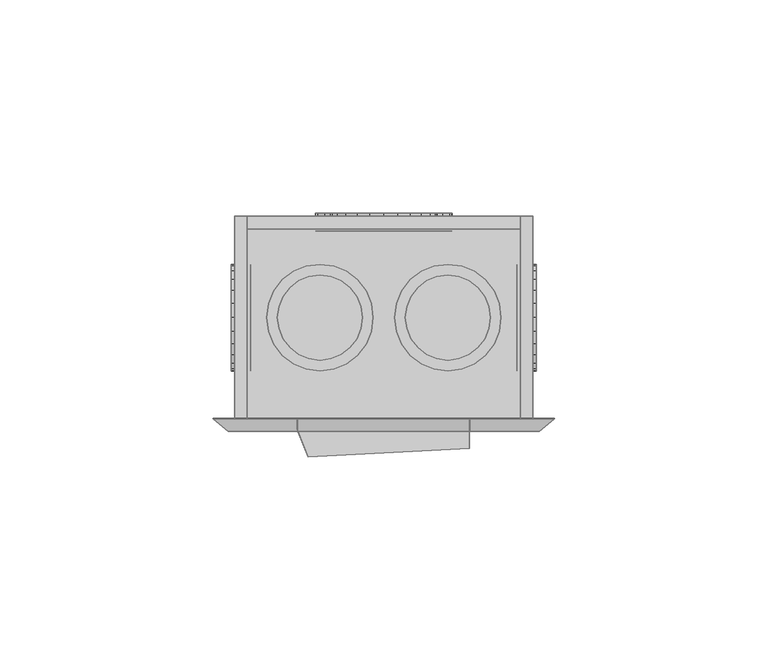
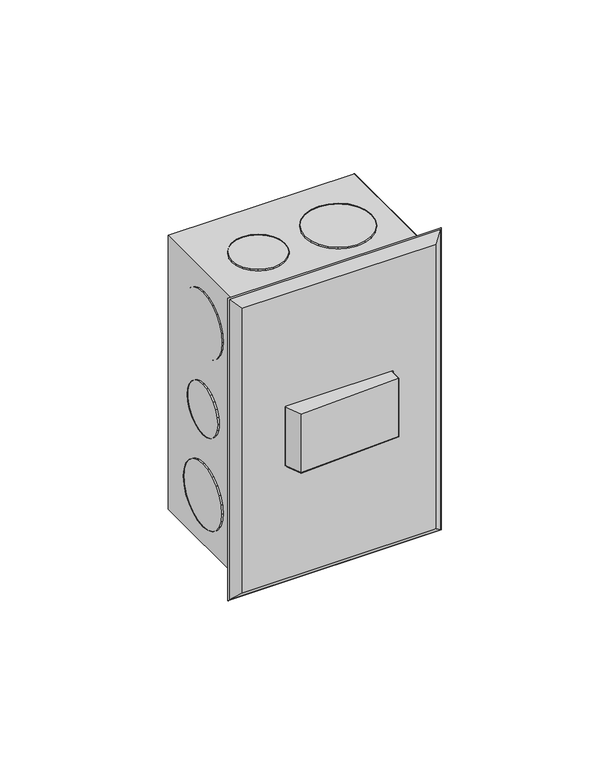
"""IFC4 building model written with IfcOpenShell, lengths in millimetres: proxy geometry,  210201 :  210201."""

from ifc_helpers import new_model, si_unit, origin, place, context, project, spatial, triangles, source, transform, mapped, element, save


def generic_models_004ad620(model_context):
    return source(origin(), model_context, "Body", "Tessellation", [
        triangles([(2476.1099075, 11248.6994385, 1254.3000378), (2473.1100906, 11248.6994385, 1148.7000154), (2476.1099075, 11248.6994385, 1145.6999805), (2473.1100906, 11248.6994385, 1251.2999302), (2406.1099651, 11248.6994385, 1254.3000378), (2409.1099274, 11248.6994385, 1251.2999302), (2406.1099651, 11248.6994385, 1145.6999805), (2409.1099274, 11248.6994385, 1148.7000154), (2473.1100906, 11296.2000275, 1251.2999302), (2473.1100906, 11296.2000275, 1148.7000154), (2406.1099651, 11296.2000275, 1254.3000378), (2406.1099651, 11296.2000275, 1145.6999805), (2409.1099274, 11296.2000275, 1251.2999302), (2476.1099075, 11296.2000275, 1145.6999805), (2409.1099274, 11296.2000275, 1148.7000154), (2476.1099075, 11296.2000275, 1254.3000378), (2473.1100906, 11293.2002106, 1251.2999302), (2409.1099274, 11293.2002106, 1148.7000154), (2473.1100906, 11293.2002106, 1148.7000154), (2409.1099274, 11293.2002106, 1251.2999302), (2455.0100327, 11292.7002411, 1191.9999887), (2449.1101021, 11292.7002411, 1186.0999855), (2452.4099007, 11292.7002411, 1188.6999722), (2456.609935, 11292.7002411, 1195.8999687), (2445.3100433, 11292.7002411, 1184.5000105), (2457.1099045, 11292.7002411, 1200.0000092), (2441.110009, 11292.7002411, 1183.9999683), (2456.609935, 11292.7002411, 1204.0999769), (2437.0099686, 11292.7002411, 1184.5000105), (2455.0100327, 11292.7002411, 1208.0000296), (2433.1100613, 11292.7002411, 1186.0999855), (2452.4099007, 11292.7002411, 1211.2999735), (2429.809972, 11292.7002411, 1188.6999722), (2449.1101021, 11292.7002411, 1213.9000328), (2427.3099792, 11292.7002411, 1191.9999887), (2445.3100433, 11292.7002411, 1215.5000078), (2425.7099316, 11292.7002411, 1195.8999687), (2441.110009, 11292.7002411, 1215.9999773), (2425.1099682, 11292.7002411, 1200.0000092), (2437.0099686, 11292.7002411, 1215.5000078), (2425.7099316, 11292.7002411, 1204.0999769), (2433.1100613, 11292.7002411, 1213.9000328), (2427.3099792, 11292.7002411, 1208.0000296), (2429.809972, 11292.7002411, 1211.2999735), (2437.0099686, 11296.8999847, 1184.5000105), (2441.110009, 11296.8999847, 1183.9999683), (2445.3100433, 11296.8999847, 1184.5000105), (2449.1101021, 11296.8999847, 1186.0999855), (2452.4099007, 11296.8999847, 1188.6999722), (2455.0100327, 11296.8999847, 1191.9999887), (2456.609935, 11296.8999847, 1195.8999687), (2457.1099045, 11296.8999847, 1200.0000092), (2456.609935, 11296.8999847, 1204.0999769), (2455.0100327, 11296.8999847, 1208.0000296), (2452.4099007, 11296.8999847, 1211.2999735), (2449.1101021, 11296.8999847, 1213.9000328), (2445.3100433, 11296.8999847, 1215.5000078), (2441.110009, 11296.8999847, 1215.9999773), (2437.0099686, 11296.8999847, 1215.5000078), (2433.1100613, 11296.8999847, 1213.9000328), (2429.809972, 11296.8999847, 1211.2999735), (2427.3099792, 11296.8999847, 1208.0000296), (2425.7099316, 11296.8999847, 1204.0999769), (2425.1099682, 11296.8999847, 1200.0000092), (2425.7099316, 11296.8999847, 1195.8999687), (2427.3099792, 11296.8999847, 1191.9999887), (2429.809972, 11296.8999847, 1188.6999722), (2433.1100613, 11296.8999847, 1186.0999855), (2452.0099251, 11292.7002411, 1227.8000565), (2447.4099152, 11292.7002411, 1223.2000465), (2450.0100471, 11292.7002411, 1225.2000698), (2453.2101425, 11292.7002411, 1230.8000187), (2444.4100983, 11292.7002411, 1221.8999805), (2453.6101181, 11292.7002411, 1233.9999687), (2441.110009, 11292.7002411, 1221.500005), (2453.2101425, 11292.7002411, 1237.2000641), (2437.910059, 11292.7002411, 1221.8999805), (2452.0099251, 11292.7002411, 1240.3000202), (2434.9099514, 11292.7002411, 1223.2000465), (2450.0100471, 11292.7002411, 1242.800013), (2432.3099648, 11292.7002411, 1225.2000698), (2430.3099415, 11292.7002411, 1227.8000565), (2447.4099152, 11292.7002411, 1244.8000362), (2444.4100983, 11292.7002411, 1246.0999569), (2429.1100147, 11292.7002411, 1230.8000187), (2441.110009, 11292.7002411, 1246.4999325), (2428.6100452, 11292.7002411, 1233.9999687), (2437.910059, 11292.7002411, 1246.0999569), (2429.1100147, 11292.7002411, 1237.2000641), (2430.3099415, 11292.7002411, 1240.3000202), (2434.9099514, 11292.7002411, 1244.8000362), (2432.3099648, 11292.7002411, 1242.800013), (2429.1100147, 11296.8999847, 1230.8000187), (2430.3099415, 11296.8999847, 1227.8000565), (2432.3099648, 11296.8999847, 1225.2000698), (2434.9099514, 11296.8999847, 1223.2000465), (2437.910059, 11296.8999847, 1221.8999805), (2441.110009, 11296.8999847, 1221.500005), (2444.4100983, 11296.8999847, 1221.8999805), (2447.4099152, 11296.8999847, 1223.2000465), (2450.0100471, 11296.8999847, 1225.2000698), (2452.0099251, 11296.8999847, 1227.8000565), (2453.2101425, 11296.8999847, 1230.8000187), (2453.6101181, 11296.8999847, 1233.9999687), (2453.2101425, 11296.8999847, 1237.2000641), (2452.0099251, 11296.8999847, 1240.3000202), (2450.0100471, 11296.8999847, 1242.800013), (2447.4099152, 11296.8999847, 1244.8000362), (2444.4100983, 11296.8999847, 1246.0999569), (2441.110009, 11296.8999847, 1246.4999325), (2437.910059, 11296.8999847, 1246.0999569), (2434.9099514, 11296.8999847, 1244.8000362), (2432.3099648, 11296.8999847, 1242.800013), (2430.3099415, 11296.8999847, 1240.3000202), (2429.1100147, 11296.8999847, 1237.2000641), (2428.6100452, 11296.8999847, 1233.9999687), (2447.4099152, 11296.8999847, 1155.1999821), (2452.0099251, 11296.8999847, 1159.6999981), (2450.0100471, 11296.8999847, 1157.2000053), (2444.4100983, 11296.8999847, 1153.8999887), (2453.2101425, 11296.8999847, 1162.8000269), (2441.110009, 11296.8999847, 1153.5000132), (2453.6101181, 11296.8999847, 1165.9999769), (2437.910059, 11296.8999847, 1153.8999887), (2453.2101425, 11296.8999847, 1169.1999996), (2434.9099514, 11296.8999847, 1155.1999821), (2452.0099251, 11296.8999847, 1172.2000345), (2432.3099648, 11296.8999847, 1157.2000053), (2450.0100471, 11296.8999847, 1174.8000212), (2430.3099415, 11296.8999847, 1159.6999981), (2447.4099152, 11296.8999847, 1176.7999718), (2429.1100147, 11296.8999847, 1162.8000269), (2444.4100983, 11296.8999847, 1178.0999651), (2441.110009, 11296.8999847, 1178.5000134), (2428.6100452, 11296.8999847, 1165.9999769), (2429.1100147, 11296.8999847, 1169.1999996), (2437.910059, 11296.8999847, 1178.0999651), (2430.3099415, 11296.8999847, 1172.2000345), (2434.9099514, 11296.8999847, 1176.7999718), (2432.3099648, 11296.8999847, 1174.8000212), (2444.4100983, 11292.7002411, 1178.0999651), (2441.110009, 11292.7002411, 1178.5000134), (2447.4099152, 11292.7002411, 1176.7999718), (2450.0100471, 11292.7002411, 1174.8000212), (2452.0099251, 11292.7002411, 1172.2000345), (2453.2101425, 11292.7002411, 1169.1999996), (2453.6101181, 11292.7002411, 1165.9999769), (2453.2101425, 11292.7002411, 1162.8000269), (2452.0099251, 11292.7002411, 1159.6999981), (2450.0100471, 11292.7002411, 1157.2000053), (2447.4099152, 11292.7002411, 1155.1999821), (2444.4100983, 11292.7002411, 1153.8999887), (2441.110009, 11292.7002411, 1153.5000132), (2437.910059, 11292.7002411, 1153.8999887), (2434.9099514, 11292.7002411, 1155.1999821), (2432.3099648, 11292.7002411, 1157.2000053), (2430.3099415, 11292.7002411, 1159.6999981), (2429.1100147, 11292.7002411, 1162.8000269), (2428.6100452, 11292.7002411, 1165.9999769), (2429.1100147, 11292.7002411, 1169.1999996), (2430.3099415, 11292.7002411, 1172.2000345), (2432.3099648, 11292.7002411, 1174.8000212), (2434.9099514, 11292.7002411, 1176.7999718), (2437.910059, 11292.7002411, 1178.0999651), (2472.3101395, 11277.4000122, 1191.3000315), (2472.3101395, 11281.0997864, 1195.0000237), (2472.3101395, 11279.499884, 1192.9000065), (2472.3101395, 11282.0997253, 1197.4000225), (2472.3101395, 11275.0001587, 1190.3000198), (2472.3101395, 11282.399707, 1200.0000092), (2472.3101395, 11272.4003174, 1189.9999655), (2472.3101395, 11269.90047, 1190.3000198), (2472.3101395, 11282.0997253, 1202.5999958), (2472.3101395, 11281.0997864, 1204.9999947), (2472.3101395, 11267.3994598, 1191.3000315), (2472.3101395, 11279.499884, 1207.1000118), (2472.3101395, 11265.3995819, 1192.9000065), (2472.3101395, 11263.7996796, 1195.0000237), (2472.3101395, 11277.4000122, 1208.6999868), (2472.3101395, 11262.7997406, 1197.4000225), (2472.3101395, 11275.0001587, 1209.6999985), (2472.3101395, 11262.399765, 1200.0000092), (2472.3101395, 11272.4003174, 1209.9999802), (2472.3101395, 11262.7997406, 1202.5999958), (2472.3101395, 11269.90047, 1209.6999985), (2472.3101395, 11267.3994598, 1208.6999868), (2472.3101395, 11263.7996796, 1204.9999947), (2472.3101395, 11265.3995819, 1207.1000118), (2476.9098587, 11272.4003174, 1189.9999655), (2476.9098587, 11275.0001587, 1190.3000198), (2476.9098587, 11269.90047, 1190.3000198), (2476.9098587, 11267.3994598, 1191.3000315), (2476.9098587, 11265.3995819, 1192.9000065), (2476.9098587, 11263.7996796, 1195.0000237), (2476.9098587, 11262.7997406, 1197.4000225), (2476.9098587, 11262.399765, 1200.0000092), (2476.9098587, 11262.7997406, 1202.5999958), (2476.9098587, 11263.7996796, 1204.9999947), (2476.9098587, 11265.3995819, 1207.1000118), (2476.9098587, 11267.3994598, 1208.6999868), (2476.9098587, 11269.90047, 1209.6999985), (2476.9098587, 11272.4003174, 1209.9999802), (2476.9098587, 11275.0001587, 1209.6999985), (2476.9098587, 11277.4000122, 1208.6999868), (2476.9098587, 11279.499884, 1207.1000118), (2476.9098587, 11281.0997864, 1204.9999947), (2476.9098587, 11282.0997253, 1202.5999958), (2476.9098587, 11282.399707, 1200.0000092), (2476.9098587, 11282.0997253, 1197.4000225), (2476.9098587, 11281.0997864, 1195.0000237), (2476.9098587, 11279.499884, 1192.9000065), (2476.9098587, 11277.4000122, 1191.3000315), (2472.3101395, 11278.6999329, 1223.2000465), (2472.3101395, 11283.2996521, 1227.8000565), (2472.3101395, 11281.2997742, 1225.2000698), (2472.3101395, 11275.700116, 1221.8999805), (2472.3101395, 11284.4995789, 1230.8000187), (2472.3101395, 11284.8995544, 1233.9999687), (2472.3101395, 11272.4003174, 1221.500005), (2472.3101395, 11269.2005127, 1221.8999805), (2472.3101395, 11284.4995789, 1237.2000641), (2472.3101395, 11283.2996521, 1240.3000202), (2472.3101395, 11266.1995331, 1223.2000465), (2472.3101395, 11263.5996918, 1225.2000698), (2472.3101395, 11281.2997742, 1242.800013), (2472.3101395, 11261.5998138, 1227.8000565), (2472.3101395, 11278.6999329, 1244.8000362), (2472.3101395, 11260.3998871, 1230.8000187), (2472.3101395, 11275.700116, 1246.0999569), (2472.3101395, 11259.8999176, 1233.9999687), (2472.3101395, 11272.4003174, 1246.4999325), (2472.3101395, 11260.3998871, 1237.2000641), (2472.3101395, 11269.2005127, 1246.0999569), (2472.3101395, 11261.5998138, 1240.3000202), (2472.3101395, 11266.1995331, 1244.8000362), (2472.3101395, 11263.5996918, 1242.800013), (2476.9098587, 11272.4003174, 1221.500005), (2476.9098587, 11275.700116, 1221.8999805), (2476.9098587, 11269.2005127, 1221.8999805), (2476.9098587, 11266.1995331, 1223.2000465), (2476.9098587, 11263.5996918, 1225.2000698), (2476.9098587, 11261.5998138, 1227.8000565), (2476.9098587, 11260.3998871, 1230.8000187), (2476.9098587, 11259.8999176, 1233.9999687), (2476.9098587, 11260.3998871, 1237.2000641), (2476.9098587, 11261.5998138, 1240.3000202), (2476.9098587, 11263.5996918, 1242.800013), (2476.9098587, 11266.1995331, 1244.8000362), (2476.9098587, 11269.2005127, 1246.0999569), (2476.9098587, 11272.4003174, 1246.4999325), (2476.9098587, 11275.700116, 1246.0999569), (2476.9098587, 11278.6999329, 1244.8000362), (2476.9098587, 11281.2997742, 1242.800013), (2476.9098587, 11283.2996521, 1240.3000202), (2476.9098587, 11284.4995789, 1237.2000641), (2476.9098587, 11284.8995544, 1233.9999687), (2476.9098587, 11284.4995789, 1230.8000187), (2476.9098587, 11283.2996521, 1227.8000565), (2476.9098587, 11281.2997742, 1225.2000698), (2476.9098587, 11278.6999329, 1223.2000465), (2476.9098587, 11283.2996521, 1159.6999981), (2476.9098587, 11278.6999329, 1155.1999821), (2476.9098587, 11281.2997742, 1157.2000053), (2476.9098587, 11284.4995789, 1162.8000269), (2476.9098587, 11275.700116, 1153.8999887), (2476.9098587, 11284.8995544, 1165.9999769), (2476.9098587, 11272.4003174, 1153.5000132), (2476.9098587, 11284.4995789, 1169.1999996), (2476.9098587, 11269.2005127, 1153.8999887), (2476.9098587, 11283.2996521, 1172.2000345), (2476.9098587, 11266.1995331, 1155.1999821), (2476.9098587, 11281.2997742, 1174.8000212), (2476.9098587, 11263.5996918, 1157.2000053), (2476.9098587, 11278.6999329, 1176.7999718), (2476.9098587, 11261.5998138, 1159.6999981), (2476.9098587, 11275.700116, 1178.0999651), (2476.9098587, 11260.3998871, 1162.8000269), (2476.9098587, 11272.4003174, 1178.5000134), (2476.9098587, 11259.8999176, 1165.9999769), (2476.9098587, 11269.2005127, 1178.0999651), (2476.9098587, 11260.3998871, 1169.1999996), (2476.9098587, 11266.1995331, 1176.7999718), (2476.9098587, 11261.5998138, 1172.2000345), (2476.9098587, 11263.5996918, 1174.8000212), (2472.3101395, 11275.700116, 1178.0999651), (2472.3101395, 11272.4003174, 1178.5000134), (2472.3101395, 11269.2005127, 1178.0999651), (2472.3101395, 11266.1995331, 1176.7999718), (2472.3101395, 11263.5996918, 1174.8000212), (2472.3101395, 11261.5998138, 1172.2000345), (2472.3101395, 11260.3998871, 1169.1999996), (2472.3101395, 11259.8999176, 1165.9999769), (2472.3101395, 11260.3998871, 1162.8000269), (2472.3101395, 11261.5998138, 1159.6999981), (2472.3101395, 11263.5996918, 1157.2000053), (2472.3101395, 11266.1995331, 1155.1999821), (2472.3101395, 11269.2005127, 1153.8999887), (2472.3101395, 11272.4003174, 1153.5000132), (2472.3101395, 11275.700116, 1153.8999887), (2472.3101395, 11278.6999329, 1155.1999821), (2472.3101395, 11281.2997742, 1157.2000053), (2472.3101395, 11283.2996521, 1159.6999981), (2472.3101395, 11284.4995789, 1162.8000269), (2472.3101395, 11284.8995544, 1165.9999769), (2472.3101395, 11284.4995789, 1169.1999996), (2472.3101395, 11283.2996521, 1172.2000345), (2472.3101395, 11281.2997742, 1174.8000212), (2472.3101395, 11278.6999329, 1176.7999718), (2409.9100239, 11281.0997864, 1195.0000237), (2409.9100239, 11277.4000122, 1191.3000315), (2409.9100239, 11279.499884, 1192.9000065), (2409.9100239, 11282.0997253, 1197.4000225), (2409.9100239, 11275.0001587, 1190.3000198), (2409.9100239, 11282.399707, 1200.0000092), (2409.9100239, 11272.4003174, 1189.9999655), (2409.9100239, 11282.0997253, 1202.5999958), (2409.9100239, 11269.90047, 1190.3000198), (2409.9100239, 11281.0997864, 1204.9999947), (2409.9100239, 11267.3994598, 1191.3000315), (2409.9100239, 11279.499884, 1207.1000118), (2409.9100239, 11265.3995819, 1192.9000065), (2409.9100239, 11277.4000122, 1208.6999868), (2409.9100239, 11263.7996796, 1195.0000237), (2409.9100239, 11275.0001587, 1209.6999985), (2409.9100239, 11262.7997406, 1197.4000225), (2409.9100239, 11262.399765, 1200.0000092), (2409.9100239, 11272.4003174, 1209.9999802), (2409.9100239, 11269.90047, 1209.6999985), (2409.9100239, 11262.7997406, 1202.5999958), (2409.9100239, 11267.3994598, 1208.6999868), (2409.9100239, 11263.7996796, 1204.9999947), (2409.9100239, 11265.3995819, 1207.1000118), (2405.310014, 11275.0001587, 1209.6999985), (2405.310014, 11272.4003174, 1209.9999802), (2405.310014, 11269.90047, 1209.6999985), (2405.310014, 11267.3994598, 1208.6999868), (2405.310014, 11265.3995819, 1207.1000118), (2405.310014, 11263.7996796, 1204.9999947), (2405.310014, 11262.7997406, 1202.5999958), (2405.310014, 11262.399765, 1200.0000092), (2405.310014, 11262.7997406, 1197.4000225), (2405.310014, 11263.7996796, 1195.0000237), (2405.310014, 11265.3995819, 1192.9000065), (2405.310014, 11267.3994598, 1191.3000315), (2405.310014, 11269.90047, 1190.3000198), (2405.310014, 11272.4003174, 1189.9999655), (2405.310014, 11275.0001587, 1190.3000198), (2405.310014, 11277.4000122, 1191.3000315), (2405.310014, 11279.499884, 1192.9000065), (2405.310014, 11281.0997864, 1195.0000237), (2405.310014, 11282.0997253, 1197.4000225), (2405.310014, 11282.399707, 1200.0000092), (2405.310014, 11282.0997253, 1202.5999958), (2405.310014, 11281.0997864, 1204.9999947), (2405.310014, 11279.499884, 1207.1000118), (2405.310014, 11277.4000122, 1208.6999868), (2409.9100239, 11283.2996521, 1159.6999981), (2409.9100239, 11278.6999329, 1155.1999821), (2409.9100239, 11281.2997742, 1157.2000053), (2409.9100239, 11284.4995789, 1162.8000269), (2409.9100239, 11275.700116, 1153.8999887), (2409.9100239, 11284.8995544, 1165.9999769), (2409.9100239, 11272.4003174, 1153.5000132), (2409.9100239, 11284.4995789, 1169.1999996), (2409.9100239, 11269.2005127, 1153.8999887), (2409.9100239, 11283.2996521, 1172.2000345), (2409.9100239, 11266.1995331, 1155.1999821), (2409.9100239, 11281.2997742, 1174.8000212), (2409.9100239, 11263.5996918, 1157.2000053), (2409.9100239, 11278.6999329, 1176.7999718), (2409.9100239, 11261.5998138, 1159.6999981), (2409.9100239, 11275.700116, 1178.0999651), (2409.9100239, 11260.3998871, 1162.8000269), (2409.9100239, 11272.4003174, 1178.5000134), (2409.9100239, 11259.8999176, 1165.9999769), (2409.9100239, 11269.2005127, 1178.0999651), (2409.9100239, 11260.3998871, 1169.1999996), (2409.9100239, 11266.1995331, 1176.7999718), (2409.9100239, 11261.5998138, 1172.2000345), (2409.9100239, 11263.5996918, 1174.8000212), (2405.310014, 11275.700116, 1178.0999651), (2405.310014, 11272.4003174, 1178.5000134), (2405.310014, 11269.2005127, 1178.0999651), (2405.310014, 11266.1995331, 1176.7999718), (2405.310014, 11263.5996918, 1174.8000212), (2405.310014, 11261.5998138, 1172.2000345), (2405.310014, 11260.3998871, 1169.1999996), (2405.310014, 11259.8999176, 1165.9999769), (2405.310014, 11260.3998871, 1162.8000269), (2405.310014, 11261.5998138, 1159.6999981), (2405.310014, 11263.5996918, 1157.2000053), (2405.310014, 11266.1995331, 1155.1999821), (2405.310014, 11269.2005127, 1153.8999887), (2405.310014, 11272.4003174, 1153.5000132), (2405.310014, 11275.700116, 1153.8999887), (2405.310014, 11278.6999329, 1155.1999821), (2405.310014, 11281.2997742, 1157.2000053), (2405.310014, 11283.2996521, 1159.6999981), (2405.310014, 11284.4995789, 1162.8000269), (2405.310014, 11284.8995544, 1165.9999769), (2405.310014, 11284.4995789, 1169.1999996), (2405.310014, 11283.2996521, 1172.2000345), (2405.310014, 11281.2997742, 1174.8000212), (2405.310014, 11278.6999329, 1176.7999718), (2405.310014, 11278.6999329, 1223.2000465), (2405.310014, 11283.2996521, 1227.8000565), (2405.310014, 11281.2997742, 1225.2000698), (2405.310014, 11275.700116, 1221.8999805), (2405.310014, 11284.4995789, 1230.8000187), (2405.310014, 11284.8995544, 1233.9999687), (2405.310014, 11272.4003174, 1221.500005), (2405.310014, 11269.2005127, 1221.8999805), (2405.310014, 11284.4995789, 1237.2000641), (2405.310014, 11283.2996521, 1240.3000202), (2405.310014, 11266.1995331, 1223.2000465), (2405.310014, 11263.5996918, 1225.2000698), (2405.310014, 11281.2997742, 1242.800013), (2405.310014, 11261.5998138, 1227.8000565), (2405.310014, 11278.6999329, 1244.8000362), (2405.310014, 11260.3998871, 1230.8000187), (2405.310014, 11275.700116, 1246.0999569), (2405.310014, 11259.8999176, 1233.9999687), (2405.310014, 11272.4003174, 1246.4999325), (2405.310014, 11260.3998871, 1237.2000641), (2405.310014, 11269.2005127, 1246.0999569), (2405.310014, 11261.5998138, 1240.3000202), (2405.310014, 11266.1995331, 1244.8000362), (2405.310014, 11263.5996918, 1242.800013), (2409.9100239, 11272.4003174, 1221.500005), (2409.9100239, 11275.700116, 1221.8999805), (2409.9100239, 11269.2005127, 1221.8999805), (2409.9100239, 11266.1995331, 1223.2000465), (2409.9100239, 11263.5996918, 1225.2000698), (2409.9100239, 11261.5998138, 1227.8000565), (2409.9100239, 11260.3998871, 1230.8000187), (2409.9100239, 11259.8999176, 1233.9999687), (2409.9100239, 11260.3998871, 1237.2000641), (2409.9100239, 11261.5998138, 1240.3000202), (2409.9100239, 11263.5996918, 1242.800013), (2409.9100239, 11266.1995331, 1244.8000362), (2409.9100239, 11269.2005127, 1246.0999569), (2409.9100239, 11272.4003174, 1246.4999325), (2409.9100239, 11275.700116, 1246.0999569), (2409.9100239, 11278.6999329, 1244.8000362), (2409.9100239, 11281.2997742, 1242.800013), (2409.9100239, 11283.2996521, 1240.3000202), (2409.9100239, 11284.4995789, 1237.2000641), (2409.9100239, 11284.8995544, 1233.9999687), (2409.9100239, 11284.4995789, 1230.8000187), (2409.9100239, 11283.2996521, 1227.8000565), (2409.9100239, 11281.2997742, 1225.2000698), (2409.9100239, 11278.6999329, 1223.2000465), (2467.0098816, 11278.6999329, 1250.9999485), (2462.4098717, 11283.2996521, 1250.9999485), (2465.0100037, 11281.2997742, 1250.9999485), (2468.210099, 11275.700116, 1250.9999485), (2459.4100548, 11284.4995789, 1250.9999485), (2456.1099655, 11284.8995544, 1250.9999485), (2468.6100746, 11272.4003174, 1250.9999485), (2468.210099, 11269.2005127, 1250.9999485), (2452.9098701, 11284.4995789, 1250.9999485), (2449.9100533, 11283.2996521, 1250.9999485), (2467.0098816, 11266.1995331, 1250.9999485), (2465.0100037, 11263.5996918, 1250.9999485), (2447.3099213, 11281.2997742, 1250.9999485), (2445.3100433, 11278.6999329, 1250.9999485), (2462.4098717, 11261.5998138, 1250.9999485), (2459.4100548, 11260.3998871, 1250.9999485), (2444.1101166, 11275.700116, 1250.9999485), (2456.1099655, 11259.8999176, 1250.9999485), (2443.6098564, 11272.4003174, 1250.9999485), (2452.9098701, 11260.3998871, 1250.9999485), (2444.1101166, 11269.2005127, 1250.9999485), (2445.3100433, 11266.1995331, 1250.9999485), (2449.9100533, 11261.5998138, 1250.9999485), (2447.3099213, 11263.5996918, 1250.9999485), (2456.1099655, 11284.8995544, 1255.1999828), (2452.9098701, 11284.4995789, 1255.1999828), (2459.4100548, 11284.4995789, 1255.1999828), (2462.4098717, 11283.2996521, 1255.1999828), (2465.0100037, 11281.2997742, 1255.1999828), (2467.0098816, 11278.6999329, 1255.1999828), (2468.210099, 11275.700116, 1255.1999828), (2468.6100746, 11272.4003174, 1255.1999828), (2468.210099, 11269.2005127, 1255.1999828), (2467.0098816, 11266.1995331, 1255.1999828), (2465.0100037, 11263.5996918, 1255.1999828), (2462.4098717, 11261.5998138, 1255.1999828), (2459.4100548, 11260.3998871, 1255.1999828), (2456.1099655, 11259.8999176, 1255.1999828), (2452.9098701, 11260.3998871, 1255.1999828), (2449.9100533, 11261.5998138, 1255.1999828), (2447.3099213, 11263.5996918, 1255.1999828), (2445.3100433, 11266.1995331, 1255.1999828), (2444.1101166, 11269.2005127, 1255.1999828), (2443.6098564, 11272.4003174, 1255.1999828), (2444.1101166, 11275.700116, 1255.1999828), (2445.3100433, 11278.6999329, 1255.1999828), (2447.3099213, 11281.2997742, 1255.1999828), (2449.9100533, 11283.2996521, 1255.1999828), (2434.8099575, 11277.4000122, 1250.9999485), (2431.110038, 11281.0997864, 1250.9999485), (2433.2100552, 11279.499884, 1250.9999485), (2428.7100391, 11282.0997253, 1250.9999485), (2435.8100418, 11275.0001587, 1250.9999485), (2426.1100525, 11282.399707, 1250.9999485), (2436.1100235, 11272.4003174, 1250.9999485), (2435.8100418, 11269.90047, 1250.9999485), (2423.5100658, 11282.0997253, 1250.9999485), (2421.110067, 11281.0997864, 1250.9999485), (2434.8099575, 11267.3994598, 1250.9999485), (2419.1100437, 11279.499884, 1250.9999485), (2433.2100552, 11265.3995819, 1250.9999485), (2431.110038, 11263.7996796, 1250.9999485), (2417.509996, 11277.4000122, 1250.9999485), (2416.5100571, 11275.0001587, 1250.9999485), (2428.7100391, 11262.7997406, 1250.9999485), (2426.1100525, 11262.399765, 1250.9999485), (2416.1099361, 11272.4003174, 1250.9999485), (2423.5100658, 11262.7997406, 1250.9999485), (2416.5100571, 11269.90047, 1250.9999485), (2421.110067, 11263.7996796, 1250.9999485), (2417.509996, 11267.3994598, 1250.9999485), (2419.1100437, 11265.3995819, 1250.9999485), (2423.5100658, 11282.0997253, 1255.1999828), (2421.110067, 11281.0997864, 1255.1999828), (2426.1100525, 11282.399707, 1255.1999828), (2428.7100391, 11282.0997253, 1255.1999828), (2431.110038, 11281.0997864, 1255.1999828), (2433.2100552, 11279.499884, 1255.1999828), (2434.8099575, 11277.4000122, 1255.1999828), (2435.8100418, 11275.0001587, 1255.1999828), (2436.1100235, 11272.4003174, 1255.1999828), (2435.8100418, 11269.90047, 1255.1999828), (2434.8099575, 11267.3994598, 1255.1999828), (2433.2100552, 11265.3995819, 1255.1999828), (2431.110038, 11263.7996796, 1255.1999828), (2428.7100391, 11262.7997406, 1255.1999828), (2426.1100525, 11262.399765, 1255.1999828), (2423.5100658, 11262.7997406, 1255.1999828), (2421.110067, 11263.7996796, 1255.1999828), (2419.1100437, 11265.3995819, 1255.1999828), (2417.509996, 11267.3994598, 1255.1999828), (2416.5100571, 11269.90047, 1255.1999828), (2416.1099361, 11272.4003174, 1255.1999828), (2416.5100571, 11275.0001587, 1255.1999828), (2417.509996, 11277.4000122, 1255.1999828), (2419.1100437, 11279.499884, 1255.1999828), (2464.8100159, 11277.4000122, 1144.8000355), (2461.109951, 11281.0997864, 1144.8000355), (2463.2101135, 11279.499884, 1144.8000355), (2458.7100975, 11282.0997253, 1144.8000355), (2465.8099548, 11275.0001587, 1144.8000355), (2456.1099655, 11282.399707, 1144.8000355), (2466.1099365, 11272.4003174, 1144.8000355), (2465.8099548, 11269.90047, 1144.8000355), (2453.5101242, 11282.0997253, 1144.8000355), (2451.10998, 11281.0997864, 1144.8000355), (2464.8100159, 11267.3994598, 1144.8000355), (2449.1101021, 11279.499884, 1144.8000355), (2463.2101135, 11265.3995819, 1144.8000355), (2461.109951, 11263.7996796, 1144.8000355), (2447.5099091, 11277.4000122, 1144.8000355), (2446.5099701, 11275.0001587, 1144.8000355), (2458.7100975, 11262.7997406, 1144.8000355), (2456.1099655, 11262.399765, 1144.8000355), (2446.1099945, 11272.4003174, 1144.8000355), (2453.5101242, 11262.7997406, 1144.8000355), (2446.5099701, 11269.90047, 1144.8000355), (2451.10998, 11263.7996796, 1144.8000355), (2447.5099091, 11267.3994598, 1144.8000355), (2449.1101021, 11265.3995819, 1144.8000355), (2458.7100975, 11282.0997253, 1149.099991), (2456.1099655, 11282.399707, 1149.099991), (2461.109951, 11281.0997864, 1149.099991), (2463.2101135, 11279.499884, 1149.099991), (2464.8100159, 11277.4000122, 1149.099991), (2465.8099548, 11275.0001587, 1149.099991), (2466.1099365, 11272.4003174, 1149.099991), (2465.8099548, 11269.90047, 1149.099991), (2464.8100159, 11267.3994598, 1149.099991), (2463.2101135, 11265.3995819, 1149.099991), (2461.109951, 11263.7996796, 1149.099991), (2458.7100975, 11262.7997406, 1149.099991), (2456.1099655, 11262.399765, 1149.099991), (2453.5101242, 11262.7997406, 1149.099991), (2451.10998, 11263.7996796, 1149.099991), (2449.1101021, 11265.3995819, 1149.099991), (2447.5099091, 11267.3994598, 1149.099991), (2446.5099701, 11269.90047, 1149.099991), (2446.1099945, 11272.4003174, 1149.099991), (2446.5099701, 11275.0001587, 1149.099991), (2447.5099091, 11277.4000122, 1149.099991), (2449.1101021, 11279.499884, 1149.099991), (2451.10998, 11281.0997864, 1149.099991), (2453.5101242, 11282.0997253, 1149.099991), (2437.0099686, 11278.6999329, 1144.8000355), (2432.4099586, 11283.2996521, 1144.8000355), (2435.0099453, 11281.2997742, 1144.8000355), (2438.2100407, 11275.700116, 1144.8000355), (2429.4099964, 11284.4995789, 1144.8000355), (2426.1100525, 11284.8995544, 1144.8000355), (2438.6098709, 11272.4003174, 1144.8000355), (2438.2100407, 11269.2005127, 1144.8000355), (2422.9099571, 11284.4995789, 1144.8000355), (2419.9099949, 11283.2996521, 1144.8000355), (2437.0099686, 11266.1995331, 1144.8000355), (2435.0099453, 11263.5996918, 1144.8000355), (2417.3100082, 11281.2997742, 1144.8000355), (2415.309985, 11278.6999329, 1144.8000355), (2432.4099586, 11261.5998138, 1144.8000355), (2429.4099964, 11260.3998871, 1144.8000355), (2414.1100582, 11275.700116, 1144.8000355), (2426.1100525, 11259.8999176, 1144.8000355), (2413.6099434, 11272.4003174, 1144.8000355), (2422.9099571, 11260.3998871, 1144.8000355), (2414.1100582, 11269.2005127, 1144.8000355), (2415.309985, 11266.1995331, 1144.8000355), (2419.9099949, 11261.5998138, 1144.8000355), (2417.3100082, 11263.5996918, 1144.8000355), (2422.9099571, 11284.4995789, 1149.099991), (2419.9099949, 11283.2996521, 1149.099991), (2426.1100525, 11284.8995544, 1149.099991), (2429.4099964, 11284.4995789, 1149.099991), (2432.4099586, 11283.2996521, 1149.099991), (2435.0099453, 11281.2997742, 1149.099991), (2437.0099686, 11278.6999329, 1149.099991), (2438.2100407, 11275.700116, 1149.099991), (2438.6098709, 11272.4003174, 1149.099991), (2438.2100407, 11269.2005127, 1149.099991), (2437.0099686, 11266.1995331, 1149.099991), (2435.0099453, 11263.5996918, 1149.099991), (2432.4099586, 11261.5998138, 1149.099991), (2429.4099964, 11260.3998871, 1149.099991), (2426.1100525, 11259.8999176, 1149.099991), (2422.9099571, 11260.3998871, 1149.099991), (2419.9099949, 11261.5998138, 1149.099991), (2417.3100082, 11263.5996918, 1149.099991), (2415.309985, 11266.1995331, 1149.099991), (2414.1100582, 11269.2005127, 1149.099991), (2413.6099434, 11272.4003174, 1149.099991), (2414.1100582, 11275.700116, 1149.099991), (2415.309985, 11278.6999329, 1149.099991), (2417.3100082, 11281.2997742, 1149.099991), (2401.1099796, 11248.6994385, 1139.9999651), (2461.3099388, 11248.6994385, 1188.2999966), (2481.109893, 11248.6994385, 1139.9999651), (2420.9099339, 11248.6994385, 1188.2999966), (2401.1099796, 11248.6994385, 1259.9999805), (2420.9099339, 11248.6994385, 1211.7000217), (2481.109893, 11248.6994385, 1259.9999805), (2461.3099388, 11248.6994385, 1211.7000217), (2420.9099339, 11245.6996216, 1188.2999966), (2420.9099339, 11245.6996216, 1211.7000217), (2461.3099388, 11245.6996216, 1188.2999966), (2461.3099388, 11245.6996216, 1211.7000217), (2477.6101067, 11245.6996216, 1143.4999695), (2477.6101067, 11245.6996216, 1256.5000488), (2404.6100567, 11245.6996216, 1143.4999695), (2404.6100567, 11245.6996216, 1256.5000488), (2461.2099449, 11241.6998657, 1188.1000088), (2420.80994, 11248.6994385, 1188.1000088), (2461.2099449, 11248.6994385, 1188.1000088), (2423.4100719, 11239.7999817, 1188.1000088), (2420.80994, 11246.1995911, 1188.1000088), (2461.2099449, 11248.6994385, 1211.500034), (2420.80994, 11248.6994385, 1211.500034), (2461.2099449, 11241.6998657, 1211.500034), (2423.4100719, 11239.7999817, 1211.500034), (2420.80994, 11246.1995911, 1211.500034)], [[1, 2, 3], [2, 1, 4], [5, 4, 1], [4, 5, 6], [3, 2, 7], [7, 2, 8], [7, 8, 6], [7, 6, 5], [2, 9, 10], [9, 2, 4], [7, 11, 12], [11, 7, 5], [4, 13, 9], [13, 4, 6], [3, 12, 14], [12, 3, 7], [13, 8, 15], [8, 13, 6], [16, 3, 14], [3, 16, 1], [15, 2, 10], [2, 15, 8], [11, 1, 16], [1, 11, 5], [12, 10, 14], [10, 12, 15], [11, 15, 12], [15, 11, 13], [14, 10, 16], [16, 10, 9], [16, 9, 13], [16, 13, 11], [17, 18, 19], [18, 17, 20], [18, 13, 15], [13, 18, 20], [19, 15, 10], [15, 19, 18], [9, 19, 10], [19, 9, 17], [13, 17, 9], [17, 13, 20], [15, 9, 10], [9, 15, 13], [21, 22, 23], [22, 21, 24], [25, 22, 24], [25, 24, 26], [27, 25, 26], [27, 26, 28], [29, 27, 28], [29, 28, 30], [31, 29, 30], [31, 30, 32], [31, 32, 33], [33, 32, 34], [33, 34, 35], [35, 34, 36], [35, 36, 37], [37, 36, 38], [37, 38, 39], [39, 38, 40], [39, 40, 41], [41, 40, 42], [41, 42, 43], [43, 42, 44], [27, 45, 46], [45, 27, 29], [25, 46, 47], [46, 25, 27], [22, 47, 48], [47, 22, 25], [23, 48, 49], [48, 23, 22], [50, 23, 49], [23, 50, 21], [51, 21, 50], [21, 51, 24], [52, 24, 51], [24, 52, 26], [53, 26, 52], [26, 53, 28], [54, 28, 53], [28, 54, 30], [55, 30, 54], [30, 55, 32], [56, 32, 55], [32, 56, 34], [57, 34, 56], [34, 57, 36], [58, 36, 57], [36, 58, 38], [59, 38, 58], [38, 59, 40], [60, 40, 59], [40, 60, 42], [61, 42, 60], [42, 61, 44], [43, 61, 62], [61, 43, 44], [41, 62, 63], [62, 41, 43], [39, 63, 64], [63, 39, 41], [37, 64, 65], [64, 37, 39], [35, 65, 66], [65, 35, 37], [33, 66, 67], [66, 33, 35], [31, 67, 68], [67, 31, 33], [29, 68, 45], [68, 29, 31], [48, 50, 49], [50, 48, 47], [51, 50, 47], [51, 47, 46], [52, 51, 46], [52, 46, 45], [53, 52, 45], [53, 45, 68], [54, 53, 68], [54, 68, 67], [54, 67, 55], [55, 67, 66], [55, 66, 56], [56, 66, 65], [56, 65, 57], [57, 65, 64], [57, 64, 58], [58, 64, 63], [58, 63, 59], [59, 63, 62], [59, 62, 60], [60, 62, 61], [69, 70, 71], [70, 69, 72], [73, 70, 72], [73, 72, 74], [75, 73, 74], [75, 74, 76], [77, 75, 76], [77, 76, 78], [79, 77, 78], [79, 78, 80], [81, 79, 80], [81, 80, 82], [82, 80, 83], [82, 83, 84], [82, 84, 85], [85, 84, 86], [85, 86, 87], [87, 86, 88], [87, 88, 89], [89, 88, 90], [90, 88, 91], [90, 91, 92], [82, 93, 94], [93, 82, 85], [81, 94, 95], [94, 81, 82], [79, 95, 96], [95, 79, 81], [77, 96, 97], [96, 77, 79], [75, 97, 98], [97, 75, 77], [73, 98, 99], [98, 73, 75], [70, 99, 100], [99, 70, 73], [71, 100, 101], [100, 71, 70], [102, 71, 101], [71, 102, 69], [103, 69, 102], [69, 103, 72], [104, 72, 103], [72, 104, 74], [105, 74, 104], [74, 105, 76], [106, 76, 105], [76, 106, 78], [107, 78, 106], [78, 107, 80], [108, 80, 107], [80, 108, 83], [109, 83, 108], [83, 109, 84], [110, 84, 109], [84, 110, 86], [111, 86, 110], [86, 111, 88], [112, 88, 111], [88, 112, 91], [113, 91, 112], [91, 113, 92], [90, 113, 114], [113, 90, 92], [89, 114, 115], [114, 89, 90], [87, 115, 116], [115, 87, 89], [85, 116, 93], [116, 85, 87], [100, 102, 101], [102, 100, 99], [103, 102, 99], [103, 99, 98], [104, 103, 98], [104, 98, 97], [105, 104, 97], [106, 105, 97], [106, 97, 96], [106, 96, 95], [106, 95, 107], [107, 95, 94], [107, 94, 108], [108, 94, 93], [108, 93, 109], [109, 93, 116], [109, 116, 110], [110, 116, 115], [110, 115, 111], [111, 115, 114], [111, 114, 112], [112, 114, 113], [117, 118, 119], [118, 117, 120], [121, 118, 120], [121, 120, 122], [123, 121, 122], [123, 122, 124], [125, 123, 124], [125, 124, 126], [127, 125, 126], [127, 126, 128], [127, 128, 129], [129, 128, 130], [129, 130, 131], [131, 130, 132], [131, 132, 133], [133, 132, 134], [134, 132, 135], [134, 135, 136], [134, 136, 137], [137, 136, 138], [137, 138, 139], [139, 138, 140], [134, 141, 133], [141, 134, 142], [133, 143, 131], [143, 133, 141], [131, 144, 129], [144, 131, 143], [129, 145, 127], [145, 129, 144], [127, 146, 125], [146, 127, 145], [125, 147, 123], [147, 125, 146], [123, 148, 121], [148, 123, 147], [121, 149, 118], [149, 121, 148], [118, 150, 119], [150, 118, 149], [150, 117, 119], [117, 150, 151], [151, 120, 117], [120, 151, 152], [152, 122, 120], [122, 152, 153], [153, 124, 122], [124, 153, 154], [154, 126, 124], [126, 154, 155], [155, 128, 126], [128, 155, 156], [156, 130, 128], [130, 156, 157], [157, 132, 130], [132, 157, 158], [158, 135, 132], [135, 158, 159], [159, 136, 135], [136, 159, 160], [160, 138, 136], [138, 160, 161], [161, 140, 138], [140, 161, 162], [140, 163, 139], [163, 140, 162], [139, 164, 137], [164, 139, 163], [137, 142, 134], [142, 137, 164], [149, 151, 150], [151, 149, 148], [152, 151, 148], [153, 152, 148], [153, 148, 147], [153, 147, 146], [154, 153, 146], [154, 146, 145], [155, 154, 145], [155, 145, 144], [156, 155, 144], [156, 144, 157], [157, 144, 143], [157, 143, 141], [157, 141, 158], [158, 141, 142], [158, 142, 159], [159, 142, 164], [159, 164, 160], [160, 164, 163], [160, 163, 161], [161, 163, 162], [165, 166, 167], [168, 166, 165], [168, 165, 169], [170, 168, 169], [170, 169, 171], [170, 171, 172], [173, 170, 172], [174, 173, 172], [174, 172, 175], [176, 174, 175], [176, 175, 177], [176, 177, 178], [176, 178, 179], [179, 178, 180], [179, 180, 181], [181, 180, 182], [181, 182, 183], [183, 182, 184], [183, 184, 185], [185, 184, 186], [186, 184, 187], [186, 187, 188], [189, 169, 190], [169, 189, 171], [191, 171, 189], [171, 191, 172], [192, 172, 191], [172, 192, 175], [193, 175, 192], [175, 193, 177], [194, 177, 193], [177, 194, 178], [195, 178, 194], [178, 195, 180], [196, 180, 195], [180, 196, 182], [197, 182, 196], [182, 197, 184], [198, 184, 197], [184, 198, 187], [199, 187, 198], [187, 199, 188], [186, 199, 200], [199, 186, 188], [185, 200, 201], [200, 185, 186], [183, 201, 202], [201, 183, 185], [181, 202, 203], [202, 181, 183], [179, 203, 204], [203, 179, 181], [176, 204, 205], [204, 176, 179], [174, 205, 206], [205, 174, 176], [173, 206, 207], [206, 173, 174], [170, 207, 208], [207, 170, 173], [168, 208, 209], [208, 168, 170], [166, 209, 210], [209, 166, 168], [167, 210, 211], [210, 167, 166], [212, 167, 211], [167, 212, 165], [190, 165, 212], [165, 190, 169], [210, 212, 211], [212, 210, 209], [190, 212, 209], [190, 209, 208], [189, 190, 208], [189, 208, 207], [191, 189, 207], [191, 207, 206], [192, 191, 206], [192, 206, 205], [192, 205, 193], [193, 205, 204], [193, 204, 194], [194, 204, 203], [194, 203, 195], [195, 203, 196], [196, 203, 202], [196, 202, 201], [196, 201, 197], [197, 201, 200], [197, 200, 198], [198, 200, 199], [213, 214, 215], [214, 213, 216], [217, 214, 216], [218, 217, 216], [218, 216, 219], [218, 219, 220], [221, 218, 220], [222, 221, 220], [222, 220, 223], [222, 223, 224], [222, 224, 225], [225, 224, 226], [225, 226, 227], [227, 226, 228], [227, 228, 229], [229, 228, 230], [229, 230, 231], [231, 230, 232], [231, 232, 233], [233, 232, 234], [233, 234, 235], [235, 234, 236], [237, 216, 238], [216, 237, 219], [239, 219, 237], [219, 239, 220], [240, 220, 239], [220, 240, 223], [241, 223, 240], [223, 241, 224], [242, 224, 241], [224, 242, 226], [243, 226, 242], [226, 243, 228], [244, 228, 243], [228, 244, 230], [245, 230, 244], [230, 245, 232], [246, 232, 245], [232, 246, 234], [247, 234, 246], [234, 247, 236], [235, 247, 248], [247, 235, 236], [233, 248, 249], [248, 233, 235], [231, 249, 250], [249, 231, 233], [229, 250, 251], [250, 229, 231], [227, 251, 252], [251, 227, 229], [225, 252, 253], [252, 225, 227], [222, 253, 254], [253, 222, 225], [221, 254, 255], [254, 221, 222], [218, 255, 256], [255, 218, 221], [217, 256, 257], [256, 217, 218], [214, 257, 258], [257, 214, 217], [215, 258, 259], [258, 215, 214], [260, 215, 259], [215, 260, 213], [238, 213, 260], [213, 238, 216], [258, 260, 259], [260, 258, 257], [238, 260, 257], [238, 257, 256], [237, 238, 256], [237, 256, 255], [239, 237, 255], [239, 255, 254], [240, 239, 254], [240, 254, 253], [241, 240, 253], [241, 253, 252], [241, 252, 242], [242, 252, 251], [242, 251, 243], [243, 251, 244], [244, 251, 250], [244, 250, 249], [244, 249, 245], [245, 249, 246], [246, 249, 248], [246, 248, 247], [261, 262, 263], [262, 261, 264], [265, 262, 264], [265, 264, 266], [267, 265, 266], [267, 266, 268], [269, 267, 268], [269, 268, 270], [271, 269, 270], [271, 270, 272], [273, 271, 272], [273, 272, 274], [273, 274, 275], [275, 274, 276], [275, 276, 277], [277, 276, 278], [277, 278, 279], [279, 278, 280], [279, 280, 281], [281, 280, 282], [281, 282, 283], [283, 282, 284], [285, 278, 276], [278, 285, 286], [286, 280, 278], [280, 286, 287], [287, 282, 280], [282, 287, 288], [288, 284, 282], [284, 288, 289], [284, 290, 283], [290, 284, 289], [283, 291, 281], [291, 283, 290], [281, 292, 279], [292, 281, 291], [279, 293, 277], [293, 279, 292], [277, 294, 275], [294, 277, 293], [275, 295, 273], [295, 275, 294], [273, 296, 271], [296, 273, 295], [271, 297, 269], [297, 271, 296], [269, 298, 267], [298, 269, 297], [267, 299, 265], [299, 267, 298], [265, 300, 262], [300, 265, 299], [262, 301, 263], [301, 262, 300], [301, 261, 263], [261, 301, 302], [302, 264, 261], [264, 302, 303], [303, 266, 264], [266, 303, 304], [304, 268, 266], [268, 304, 305], [305, 270, 268], [270, 305, 306], [306, 272, 270], [272, 306, 307], [307, 274, 272], [274, 307, 308], [308, 276, 274], [276, 308, 285], [300, 302, 301], [302, 300, 299], [303, 302, 299], [303, 299, 298], [304, 303, 298], [304, 298, 297], [305, 304, 297], [305, 297, 296], [306, 305, 296], [306, 296, 295], [306, 295, 307], [307, 295, 294], [307, 294, 308], [308, 294, 293], [308, 293, 285], [285, 293, 286], [286, 293, 292], [286, 292, 291], [286, 291, 287], [287, 291, 288], [288, 291, 290], [288, 290, 289], [309, 310, 311], [310, 309, 312], [313, 310, 312], [313, 312, 314], [315, 313, 314], [315, 314, 316], [317, 315, 316], [317, 316, 318], [319, 317, 318], [319, 318, 320], [319, 320, 321], [321, 320, 322], [321, 322, 323], [323, 322, 324], [323, 324, 325], [325, 324, 326], [326, 324, 327], [326, 327, 328], [326, 328, 329], [329, 328, 330], [329, 330, 331], [331, 330, 332], [333, 327, 324], [327, 333, 334], [334, 328, 327], [328, 334, 335], [335, 330, 328], [330, 335, 336], [336, 332, 330], [332, 336, 337], [332, 338, 331], [338, 332, 337], [331, 339, 329], [339, 331, 338], [329, 340, 326], [340, 329, 339], [326, 341, 325], [341, 326, 340], [325, 342, 323], [342, 325, 341], [323, 343, 321], [343, 323, 342], [321, 344, 319], [344, 321, 343], [319, 345, 317], [345, 319, 344], [317, 346, 315], [346, 317, 345], [315, 347, 313], [347, 315, 346], [313, 348, 310], [348, 313, 347], [310, 349, 311], [349, 310, 348], [349, 309, 311], [309, 349, 350], [350, 312, 309], [312, 350, 351], [351, 314, 312], [314, 351, 352], [352, 316, 314], [316, 352, 353], [353, 318, 316], [318, 353, 354], [354, 320, 318], [320, 354, 355], [355, 322, 320], [322, 355, 356], [356, 324, 322], [324, 356, 333], [348, 350, 349], [351, 350, 348], [351, 348, 347], [352, 351, 347], [352, 347, 346], [352, 346, 345], [353, 352, 345], [354, 353, 345], [354, 345, 344], [355, 354, 344], [355, 344, 343], [355, 343, 342], [355, 342, 356], [356, 342, 341], [356, 341, 333], [333, 341, 340], [333, 340, 334], [334, 340, 339], [334, 339, 335], [335, 339, 336], [336, 339, 338], [336, 338, 337], [357, 358, 359], [358, 357, 360], [361, 358, 360], [361, 360, 362], [363, 361, 362], [363, 362, 364], [365, 363, 364], [365, 364, 366], [367, 365, 366], [367, 366, 368], [369, 367, 368], [369, 368, 370], [369, 370, 371], [371, 370, 372], [371, 372, 373], [373, 372, 374], [373, 374, 375], [375, 374, 376], [375, 376, 377], [377, 376, 378], [377, 378, 379], [379, 378, 380], [381, 374, 372], [374, 381, 382], [382, 376, 374], [376, 382, 383], [383, 378, 376], [378, 383, 384], [384, 380, 378], [380, 384, 385], [380, 386, 379], [386, 380, 385], [379, 387, 377], [387, 379, 386], [377, 388, 375], [388, 377, 387], [375, 389, 373], [389, 375, 388], [373, 390, 371], [390, 373, 389], [371, 391, 369], [391, 371, 390], [369, 392, 367], [392, 369, 391], [367, 393, 365], [393, 367, 392], [365, 394, 363], [394, 365, 393], [363, 395, 361], [395, 363, 394], [361, 396, 358], [396, 361, 395], [358, 397, 359], [397, 358, 396], [397, 357, 359], [357, 397, 398], [398, 360, 357], [360, 398, 399], [399, 362, 360], [362, 399, 400], [400, 364, 362], [364, 400, 401], [401, 366, 364], [366, 401, 402], [402, 368, 366], [368, 402, 403], [403, 370, 368], [370, 403, 404], [404, 372, 370], [372, 404, 381], [396, 398, 397], [398, 396, 395], [399, 398, 395], [399, 395, 394], [400, 399, 394], [400, 394, 393], [401, 400, 393], [401, 393, 392], [402, 401, 392], [402, 392, 391], [402, 391, 403], [403, 391, 390], [403, 390, 404], [404, 390, 389], [404, 389, 381], [381, 389, 382], [382, 389, 388], [382, 388, 387], [382, 387, 383], [383, 387, 384], [384, 387, 386], [384, 386, 385], [405, 406, 407], [406, 405, 408], [409, 406, 408], [410, 409, 408], [410, 408, 411], [410, 411, 412], [413, 410, 412], [414, 413, 412], [414, 412, 415], [414, 415, 416], [414, 416, 417], [417, 416, 418], [417, 418, 419], [419, 418, 420], [419, 420, 421], [421, 420, 422], [421, 422, 423], [423, 422, 424], [423, 424, 425], [425, 424, 426], [425, 426, 427], [427, 426, 428], [429, 408, 430], [408, 429, 411], [431, 411, 429], [411, 431, 412], [432, 412, 431], [412, 432, 415], [433, 415, 432], [415, 433, 416], [434, 416, 433], [416, 434, 418], [435, 418, 434], [418, 435, 420], [436, 420, 435], [420, 436, 422], [437, 422, 436], [422, 437, 424], [438, 424, 437], [424, 438, 426], [439, 426, 438], [426, 439, 428], [427, 439, 440], [439, 427, 428], [425, 440, 441], [440, 425, 427], [423, 441, 442], [441, 423, 425], [421, 442, 443], [442, 421, 423], [419, 443, 444], [443, 419, 421], [417, 444, 445], [444, 417, 419], [414, 445, 446], [445, 414, 417], [413, 446, 447], [446, 413, 414], [410, 447, 448], [447, 410, 413], [409, 448, 449], [448, 409, 410], [406, 449, 450], [449, 406, 409], [407, 450, 451], [450, 407, 406], [452, 407, 451], [407, 452, 405], [430, 405, 452], [405, 430, 408], [450, 452, 451], [452, 450, 449], [430, 452, 449], [430, 449, 448], [429, 430, 448], [429, 448, 447], [431, 429, 447], [431, 447, 446], [432, 431, 446], [432, 446, 445], [433, 432, 445], [433, 445, 444], [433, 444, 434], [434, 444, 443], [434, 443, 435], [435, 443, 436], [436, 443, 442], [436, 442, 441], [436, 441, 437], [437, 441, 438], [438, 441, 440], [438, 440, 439], [453, 454, 455], [454, 453, 456], [457, 454, 456], [458, 457, 456], [458, 456, 459], [458, 459, 460], [461, 458, 460], [462, 461, 460], [462, 460, 463], [462, 463, 464], [462, 464, 465], [465, 464, 466], [466, 464, 467], [466, 467, 468], [466, 468, 469], [469, 468, 470], [469, 470, 471], [471, 470, 472], [471, 472, 473], [473, 472, 474], [474, 472, 475], [474, 475, 476], [461, 477, 458], [477, 461, 478], [458, 479, 457], [479, 458, 477], [457, 480, 454], [480, 457, 479], [454, 481, 455], [481, 454, 480], [481, 453, 455], [453, 481, 482], [482, 456, 453], [456, 482, 483], [483, 459, 456], [459, 483, 484], [484, 460, 459], [460, 484, 485], [485, 463, 460], [463, 485, 486], [486, 464, 463], [464, 486, 487], [487, 467, 464], [467, 487, 488], [488, 468, 467], [468, 488, 489], [489, 470, 468], [470, 489, 490], [490, 472, 470], [472, 490, 491], [491, 475, 472], [475, 491, 492], [492, 476, 475], [476, 492, 493], [476, 494, 474], [494, 476, 493], [474, 495, 473], [495, 474, 494], [473, 496, 471], [496, 473, 495], [471, 497, 469], [497, 471, 496], [469, 498, 466], [498, 469, 497], [466, 499, 465], [499, 466, 498], [465, 500, 462], [500, 465, 499], [462, 478, 461], [478, 462, 500], [480, 482, 481], [483, 482, 480], [483, 480, 479], [483, 479, 477], [484, 483, 477], [485, 484, 477], [485, 477, 478], [485, 478, 500], [486, 485, 500], [487, 486, 500], [487, 500, 499], [487, 499, 498], [487, 498, 488], [488, 498, 489], [489, 498, 497], [489, 497, 490], [490, 497, 496], [490, 496, 491], [491, 496, 495], [491, 495, 494], [491, 494, 492], [492, 494, 493], [501, 502, 503], [504, 502, 501], [504, 501, 505], [506, 504, 505], [506, 505, 507], [506, 507, 508], [509, 506, 508], [510, 509, 508], [510, 508, 511], [512, 510, 511], [512, 511, 513], [512, 513, 514], [512, 514, 515], [515, 514, 516], [516, 514, 517], [516, 517, 518], [516, 518, 519], [519, 518, 520], [519, 520, 521], [521, 520, 522], [521, 522, 523], [523, 522, 524], [510, 525, 509], [525, 510, 526], [509, 527, 506], [527, 509, 525], [506, 528, 504], [528, 506, 527], [504, 529, 502], [529, 504, 528], [502, 530, 503], [530, 502, 529], [530, 501, 503], [501, 530, 531], [531, 505, 501], [505, 531, 532], [532, 507, 505], [507, 532, 533], [533, 508, 507], [508, 533, 534], [534, 511, 508], [511, 534, 535], [535, 513, 511], [513, 535, 536], [536, 514, 513], [514, 536, 537], [537, 517, 514], [517, 537, 538], [538, 518, 517], [518, 538, 539], [539, 520, 518], [520, 539, 540], [540, 522, 520], [522, 540, 541], [541, 524, 522], [524, 541, 542], [524, 543, 523], [543, 524, 542], [523, 544, 521], [544, 523, 543], [521, 545, 519], [545, 521, 544], [519, 546, 516], [546, 519, 545], [516, 547, 515], [547, 516, 546], [515, 548, 512], [548, 515, 547], [512, 526, 510], [526, 512, 548], [529, 531, 530], [531, 529, 528], [532, 531, 528], [532, 528, 527], [533, 532, 527], [534, 533, 527], [534, 527, 525], [534, 525, 526], [535, 534, 526], [535, 526, 548], [535, 548, 536], [536, 548, 537], [537, 548, 547], [537, 547, 546], [537, 546, 538], [538, 546, 539], [539, 546, 545], [539, 545, 540], [540, 545, 544], [540, 544, 541], [541, 544, 543], [541, 543, 542], [549, 550, 551], [552, 550, 549], [552, 549, 553], [554, 552, 553], [554, 553, 555], [554, 555, 556], [557, 554, 556], [558, 557, 556], [558, 556, 559], [560, 558, 559], [560, 559, 561], [560, 561, 562], [560, 562, 563], [563, 562, 564], [564, 562, 565], [564, 565, 566], [564, 566, 567], [567, 566, 568], [567, 568, 569], [569, 568, 570], [569, 570, 571], [571, 570, 572], [554, 573, 552], [573, 554, 574], [552, 575, 550], [575, 552, 573], [550, 576, 551], [576, 550, 575], [576, 549, 551], [549, 576, 577], [577, 553, 549], [553, 577, 578], [578, 555, 553], [555, 578, 579], [579, 556, 555], [556, 579, 580], [580, 559, 556], [559, 580, 581], [581, 561, 559], [561, 581, 582], [582, 562, 561], [562, 582, 583], [583, 565, 562], [565, 583, 584], [584, 566, 565], [566, 584, 585], [585, 568, 566], [568, 585, 586], [586, 570, 568], [570, 586, 587], [587, 572, 570], [572, 587, 588], [572, 589, 571], [589, 572, 588], [571, 590, 569], [590, 571, 589], [569, 591, 567], [591, 569, 590], [567, 592, 564], [592, 567, 591], [564, 593, 563], [593, 564, 592], [563, 594, 560], [594, 563, 593], [560, 595, 558], [595, 560, 594], [558, 596, 557], [596, 558, 595], [557, 574, 554], [574, 557, 596], [575, 577, 576], [577, 575, 573], [578, 577, 573], [578, 573, 574], [579, 578, 574], [580, 579, 574], [580, 574, 596], [580, 596, 595], [581, 580, 595], [581, 595, 594], [581, 594, 582], [582, 594, 583], [583, 594, 593], [583, 593, 592], [583, 592, 584], [584, 592, 585], [585, 592, 591], [585, 591, 586], [586, 591, 590], [586, 590, 587], [587, 590, 589], [587, 589, 588], [597, 598, 599], [598, 597, 600], [601, 598, 600], [602, 601, 600], [602, 600, 603], [602, 603, 604], [605, 602, 604], [606, 605, 604], [606, 604, 607], [606, 607, 608], [606, 608, 609], [609, 608, 610], [610, 608, 611], [610, 611, 612], [610, 612, 613], [613, 612, 614], [613, 614, 615], [615, 614, 616], [615, 616, 617], [617, 616, 618], [618, 616, 619], [618, 619, 620], [606, 621, 605], [621, 606, 622], [605, 623, 602], [623, 605, 621], [602, 624, 601], [624, 602, 623], [601, 625, 598], [625, 601, 624], [598, 626, 599], [626, 598, 625], [626, 597, 599], [597, 626, 627], [627, 600, 597], [600, 627, 628], [628, 603, 600], [603, 628, 629], [629, 604, 603], [604, 629, 630], [630, 607, 604], [607, 630, 631], [631, 608, 607], [608, 631, 632], [632, 611, 608], [611, 632, 633], [633, 612, 611], [612, 633, 634], [634, 614, 612], [614, 634, 635], [635, 616, 614], [616, 635, 636], [636, 619, 616], [619, 636, 637], [637, 620, 619], [620, 637, 638], [620, 639, 618], [639, 620, 638], [618, 640, 617], [640, 618, 639], [617, 641, 615], [641, 617, 640], [615, 642, 613], [642, 615, 641], [613, 643, 610], [643, 613, 642], [610, 644, 609], [644, 610, 643], [609, 622, 606], [622, 609, 644], [625, 627, 626], [628, 627, 625], [628, 625, 624], [628, 624, 623], [629, 628, 623], [630, 629, 623], [630, 623, 621], [630, 621, 622], [631, 630, 622], [632, 631, 622], [632, 622, 644], [632, 644, 643], [632, 643, 633], [633, 643, 634], [634, 643, 642], [634, 642, 635], [635, 642, 641], [635, 641, 636], [636, 641, 640], [636, 640, 639], [636, 639, 637], [637, 639, 638], [645, 646, 647], [646, 645, 648], [649, 648, 645], [648, 649, 650], [647, 646, 651], [651, 646, 652], [651, 652, 650], [651, 650, 649], [650, 653, 648], [653, 650, 654], [648, 655, 646], [655, 648, 653], [655, 652, 646], [652, 655, 656], [656, 650, 652], [650, 656, 654], [651, 657, 647], [657, 651, 658], [647, 657, 645], [645, 657, 659], [660, 645, 659], [645, 660, 649], [651, 660, 658], [649, 660, 651], [658, 655, 657], [655, 658, 656], [654, 656, 658], [654, 658, 660], [655, 659, 657], [659, 655, 653], [659, 653, 660], [660, 653, 654], [661, 662, 663], [662, 661, 664], [662, 664, 665], [662, 666, 663], [666, 662, 667], [666, 661, 663], [661, 666, 668], [668, 664, 661], [664, 668, 669], [664, 670, 665], [670, 664, 669], [665, 667, 662], [667, 665, 670], [667, 668, 666], [668, 667, 669], [669, 667, 670]], closed=False),
    ])


if __name__ == "__main__":
    model = new_model("IFC4")
    model_context = context("Model", 3, world=origin())
    ifc_project = project(units=[si_unit("LENGTHUNIT", "METRE", prefix="MILLI")], contexts=[model_context])
    site = spatial("IfcSite", under=ifc_project)
    building = spatial("IfcBuilding", under=site)
    placement = place(None, origin())
    generic_models_shape = generic_models_004ad620(model_context)
    element("IfcBuildingElementProxy", 1, Name=" 210201 :  210201", ObjectType=" 210201 :  210201", at=placement, inside=building, context=model_context, shape_type="MappedRepresentation", body=[
        mapped(generic_models_shape, transform((0.0, 0.0, 0.0), x_axis=(1.0, 0.0, 0.0), y_axis=(0.0, 1.0, 0.0), z_axis=(0.0, 0.0, 1.0))),
    ])
    save(model, "model.ifc")
